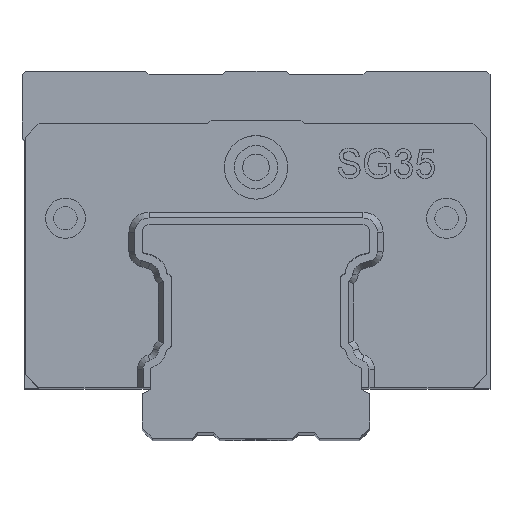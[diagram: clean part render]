
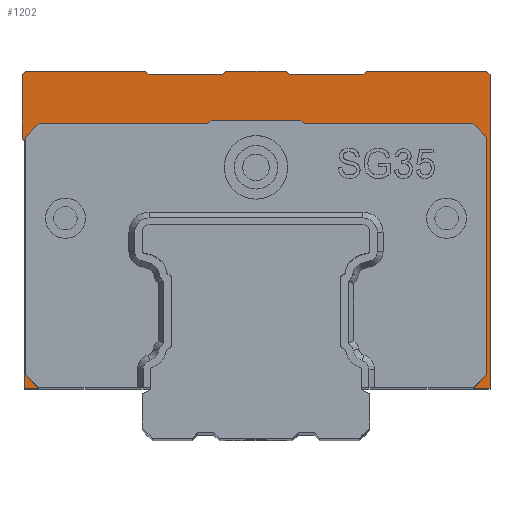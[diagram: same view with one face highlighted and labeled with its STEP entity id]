
A CAD part, top view. The second image highlights one B-rep face of the part: STEP entity #1202.
In plain terms, the highlighted planar face has unit normal (0, 0, 1).
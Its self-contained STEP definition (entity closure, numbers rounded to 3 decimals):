
#808=FACE_OUTER_BOUND('',#3395,.T.);
#1202=ADVANCED_FACE('',(#808),#1619,.F.);
#1619=PLANE('',#8478);
#1894=LINE('',#11164,#2518);
#1909=LINE('',#11195,#2533);
#1913=LINE('',#11203,#2537);
#1914=LINE('',#11206,#2538);
#1915=LINE('',#11207,#2539);
#1916=LINE('',#11209,#2540);
#1917=LINE('',#11211,#2541);
#1918=LINE('',#11213,#2542);
#1919=LINE('',#11215,#2543);
#1920=LINE('',#11217,#2544);
#1921=LINE('',#11219,#2545);
#1922=LINE('',#11221,#2546);
#1923=LINE('',#11223,#2547);
#1924=LINE('',#11225,#2548);
#1925=LINE('',#11227,#2549);
#1926=LINE('',#11229,#2550);
#1927=LINE('',#11231,#2551);
#1928=LINE('',#11233,#2552);
#1929=LINE('',#11235,#2553);
#1930=LINE('',#11236,#2554);
#1931=LINE('',#11238,#2555);
#1932=LINE('',#11240,#2556);
#1933=LINE('',#11242,#2557);
#1934=LINE('',#11244,#2558);
#1935=LINE('',#11246,#2559);
#1936=LINE('',#11248,#2560);
#1937=LINE('',#11250,#2561);
#1938=LINE('',#11252,#2562);
#2518=VECTOR('',#9281,1.);
#2533=VECTOR('',#9298,1.);
#2537=VECTOR('',#9304,1.);
#2538=VECTOR('',#9305,1.);
#2539=VECTOR('',#9306,1.);
#2540=VECTOR('',#9307,1.);
#2541=VECTOR('',#9308,1.);
#2542=VECTOR('',#9309,1.);
#2543=VECTOR('',#9310,1.);
#2544=VECTOR('',#9311,1.);
#2545=VECTOR('',#9312,1.);
#2546=VECTOR('',#9313,1.);
#2547=VECTOR('',#9314,1.);
#2548=VECTOR('',#9315,1.);
#2549=VECTOR('',#9316,1.);
#2550=VECTOR('',#9317,1.);
#2551=VECTOR('',#9318,1.);
#2552=VECTOR('',#9319,1.);
#2553=VECTOR('',#9320,1.);
#2554=VECTOR('',#9321,1.);
#2555=VECTOR('',#9322,1.);
#2556=VECTOR('',#9323,1.);
#2557=VECTOR('',#9324,1.);
#2558=VECTOR('',#9325,1.);
#2559=VECTOR('',#9326,1.);
#2560=VECTOR('',#9327,1.);
#2561=VECTOR('',#9328,1.);
#2562=VECTOR('',#9329,1.);
#3395=EDGE_LOOP('',(#4203,#4204,#4205,#4206,#4207,#4208,#4209,#4210,#4211,
#4212,#4213,#4214,#4215,#4216,#4217,#4218,#4219,#4220,#4221,#4222,#4223,
#4224,#4225,#4226,#4227,#4228,#4229,#4230));
#4203=ORIENTED_EDGE('',*,*,#7143,.T.);
#4204=ORIENTED_EDGE('',*,*,#7144,.T.);
#4205=ORIENTED_EDGE('',*,*,#7139,.T.);
#4206=ORIENTED_EDGE('',*,*,#7145,.T.);
#4207=ORIENTED_EDGE('',*,*,#7146,.T.);
#4208=ORIENTED_EDGE('',*,*,#7147,.T.);
#4209=ORIENTED_EDGE('',*,*,#7148,.T.);
#4210=ORIENTED_EDGE('',*,*,#7149,.T.);
#4211=ORIENTED_EDGE('',*,*,#7150,.T.);
#4212=ORIENTED_EDGE('',*,*,#7151,.T.);
#4213=ORIENTED_EDGE('',*,*,#7152,.T.);
#4214=ORIENTED_EDGE('',*,*,#7153,.T.);
#4215=ORIENTED_EDGE('',*,*,#7154,.T.);
#4216=ORIENTED_EDGE('',*,*,#7155,.T.);
#4217=ORIENTED_EDGE('',*,*,#7156,.T.);
#4218=ORIENTED_EDGE('',*,*,#7157,.T.);
#4219=ORIENTED_EDGE('',*,*,#7158,.T.);
#4220=ORIENTED_EDGE('',*,*,#7159,.F.);
#4221=ORIENTED_EDGE('',*,*,#7124,.T.);
#4222=ORIENTED_EDGE('',*,*,#7160,.T.);
#4223=ORIENTED_EDGE('',*,*,#7161,.T.);
#4224=ORIENTED_EDGE('',*,*,#7162,.T.);
#4225=ORIENTED_EDGE('',*,*,#7163,.T.);
#4226=ORIENTED_EDGE('',*,*,#7164,.F.);
#4227=ORIENTED_EDGE('',*,*,#7165,.F.);
#4228=ORIENTED_EDGE('',*,*,#7166,.F.);
#4229=ORIENTED_EDGE('',*,*,#7167,.T.);
#4230=ORIENTED_EDGE('',*,*,#7168,.T.);
#6279=VERTEX_POINT('',#11163);
#6280=VERTEX_POINT('',#11165);
#6294=VERTEX_POINT('',#11194);
#6295=VERTEX_POINT('',#11196);
#6298=VERTEX_POINT('',#11204);
#6299=VERTEX_POINT('',#11205);
#6300=VERTEX_POINT('',#11208);
#6301=VERTEX_POINT('',#11210);
#6302=VERTEX_POINT('',#11212);
#6303=VERTEX_POINT('',#11214);
#6304=VERTEX_POINT('',#11216);
#6305=VERTEX_POINT('',#11218);
#6306=VERTEX_POINT('',#11220);
#6307=VERTEX_POINT('',#11222);
#6308=VERTEX_POINT('',#11224);
#6309=VERTEX_POINT('',#11226);
#6310=VERTEX_POINT('',#11228);
#6311=VERTEX_POINT('',#11230);
#6312=VERTEX_POINT('',#11232);
#6313=VERTEX_POINT('',#11234);
#6314=VERTEX_POINT('',#11237);
#6315=VERTEX_POINT('',#11239);
#6316=VERTEX_POINT('',#11241);
#6317=VERTEX_POINT('',#11243);
#6318=VERTEX_POINT('',#11245);
#6319=VERTEX_POINT('',#11247);
#6320=VERTEX_POINT('',#11249);
#6321=VERTEX_POINT('',#11251);
#7124=EDGE_CURVE('',#6280,#6279,#1894,.T.);
#7139=EDGE_CURVE('',#6295,#6294,#1909,.T.);
#7143=EDGE_CURVE('',#6298,#6299,#1913,.T.);
#7144=EDGE_CURVE('',#6299,#6295,#1914,.T.);
#7145=EDGE_CURVE('',#6294,#6300,#1915,.T.);
#7146=EDGE_CURVE('',#6300,#6301,#1916,.T.);
#7147=EDGE_CURVE('',#6301,#6302,#1917,.T.);
#7148=EDGE_CURVE('',#6302,#6303,#1918,.T.);
#7149=EDGE_CURVE('',#6303,#6304,#1919,.T.);
#7150=EDGE_CURVE('',#6304,#6305,#1920,.T.);
#7151=EDGE_CURVE('',#6305,#6306,#1921,.T.);
#7152=EDGE_CURVE('',#6306,#6307,#1922,.T.);
#7153=EDGE_CURVE('',#6307,#6308,#1923,.T.);
#7154=EDGE_CURVE('',#6308,#6309,#1924,.T.);
#7155=EDGE_CURVE('',#6309,#6310,#1925,.T.);
#7156=EDGE_CURVE('',#6310,#6311,#1926,.T.);
#7157=EDGE_CURVE('',#6311,#6312,#1927,.T.);
#7158=EDGE_CURVE('',#6312,#6313,#1928,.T.);
#7159=EDGE_CURVE('',#6280,#6313,#1929,.T.);
#7160=EDGE_CURVE('',#6279,#6314,#1930,.T.);
#7161=EDGE_CURVE('',#6314,#6315,#1931,.T.);
#7162=EDGE_CURVE('',#6315,#6316,#1932,.T.);
#7163=EDGE_CURVE('',#6316,#6317,#1933,.T.);
#7164=EDGE_CURVE('',#6318,#6317,#1934,.T.);
#7165=EDGE_CURVE('',#6319,#6318,#1935,.T.);
#7166=EDGE_CURVE('',#6320,#6319,#1936,.T.);
#7167=EDGE_CURVE('',#6320,#6321,#1937,.T.);
#7168=EDGE_CURVE('',#6321,#6298,#1938,.T.);
#8478=AXIS2_PLACEMENT_3D('',#11253,#9330,#9331);
#9281=DIRECTION('',(1.,0.,0.));
#9298=DIRECTION('',(1.,0.,0.));
#9304=DIRECTION('',(0.,-1.,0.));
#9305=DIRECTION('',(-0.707,-0.707,0.));
#9306=DIRECTION('',(0.,1.,0.));
#9307=DIRECTION('',(-0.707,0.707,0.));
#9308=DIRECTION('',(-1.,0.,0.));
#9309=DIRECTION('',(-0.707,-0.707,0.));
#9310=DIRECTION('',(-1.,0.,0.));
#9311=DIRECTION('',(-0.707,0.707,0.));
#9312=DIRECTION('',(-1.,0.,0.));
#9313=DIRECTION('',(-0.707,-0.707,0.));
#9314=DIRECTION('',(-1.,0.,0.));
#9315=DIRECTION('',(-0.707,0.707,0.));
#9316=DIRECTION('',(-1.,0.,0.));
#9317=DIRECTION('',(-0.707,-0.707,0.));
#9318=DIRECTION('',(0.,-1.,0.));
#9319=DIRECTION('',(0.707,-0.707,0.));
#9320=DIRECTION('',(0.,1.,0.));
#9321=DIRECTION('',(-0.707,0.707,0.));
#9322=DIRECTION('',(0.,1.,0.));
#9323=DIRECTION('',(0.707,0.707,0.));
#9324=DIRECTION('',(1.,0.,0.));
#9325=DIRECTION('',(-0.707,-0.707,0.));
#9326=DIRECTION('',(-1.,0.,0.));
#9327=DIRECTION('',(-0.707,0.707,0.));
#9328=DIRECTION('',(1.,0.,0.));
#9329=DIRECTION('',(0.707,-0.707,0.));
#9330=DIRECTION('',(0.,0.,-1.));
#9331=DIRECTION('',(1.,0.,0.));
#11163=CARTESIAN_POINT('',(-36.297,-6.483,229.013));
#11164=CARTESIAN_POINT('',(-38.397,-6.483,229.013));
#11165=CARTESIAN_POINT('',(-38.397,-6.483,229.013));
#11194=CARTESIAN_POINT('',(31.203,-6.483,229.013));
#11195=CARTESIAN_POINT('',(-38.397,-6.483,229.013));
#11196=CARTESIAN_POINT('',(28.703,-6.483,229.013));
#11203=CARTESIAN_POINT('',(30.703,-7.312,229.013));
#11204=CARTESIAN_POINT('',(30.703,31.017,229.013));
#11205=CARTESIAN_POINT('',(30.703,-4.483,229.013));
#11206=CARTESIAN_POINT('',(39.538,4.352,229.013));
#11207=CARTESIAN_POINT('',(31.203,-6.483,229.013));
#11208=CARTESIAN_POINT('',(31.203,40.417,229.013));
#11209=CARTESIAN_POINT('',(31.203,40.417,229.013));
#11210=CARTESIAN_POINT('',(30.703,40.917,229.013));
#11211=CARTESIAN_POINT('',(30.703,40.917,229.013));
#11212=CARTESIAN_POINT('',(12.703,40.917,229.013));
#11213=CARTESIAN_POINT('',(12.703,40.917,229.013));
#11214=CARTESIAN_POINT('',(12.203,40.417,229.013));
#11215=CARTESIAN_POINT('',(12.203,40.417,229.013));
#11216=CARTESIAN_POINT('',(1.203,40.417,229.013));
#11217=CARTESIAN_POINT('',(1.203,40.417,229.013));
#11218=CARTESIAN_POINT('',(0.703,40.917,229.013));
#11219=CARTESIAN_POINT('',(0.703,40.917,229.013));
#11220=CARTESIAN_POINT('',(-8.297,40.917,229.013));
#11221=CARTESIAN_POINT('',(-8.297,40.917,229.013));
#11222=CARTESIAN_POINT('',(-8.797,40.417,229.013));
#11223=CARTESIAN_POINT('',(-8.797,40.417,229.013));
#11224=CARTESIAN_POINT('',(-19.797,40.417,229.013));
#11225=CARTESIAN_POINT('',(-19.797,40.417,229.013));
#11226=CARTESIAN_POINT('',(-20.297,40.917,229.013));
#11227=CARTESIAN_POINT('',(-20.297,40.917,229.013));
#11228=CARTESIAN_POINT('',(-38.297,40.917,229.013));
#11229=CARTESIAN_POINT('',(-38.297,40.917,229.013));
#11230=CARTESIAN_POINT('',(-38.797,40.417,229.013));
#11231=CARTESIAN_POINT('',(-38.797,40.417,229.013));
#11232=CARTESIAN_POINT('',(-38.797,30.917,229.013));
#11233=CARTESIAN_POINT('',(-38.797,30.917,229.013));
#11234=CARTESIAN_POINT('',(-38.397,30.517,229.013));
#11235=CARTESIAN_POINT('',(-38.397,-6.483,229.013));
#11236=CARTESIAN_POINT('',(7.867,-50.648,229.013));
#11237=CARTESIAN_POINT('',(-38.297,-4.483,229.013));
#11238=CARTESIAN_POINT('',(-38.297,-7.312,229.013));
#11239=CARTESIAN_POINT('',(-38.297,31.017,229.013));
#11240=CARTESIAN_POINT('',(-12.712,56.602,229.013));
#11241=CARTESIAN_POINT('',(-36.248,33.066,229.013));
#11242=CARTESIAN_POINT('',(51.203,33.066,229.013));
#11243=CARTESIAN_POINT('',(-11.025,33.066,229.013));
#11244=CARTESIAN_POINT('',(-0.1,43.991,229.013));
#11245=CARTESIAN_POINT('',(-10.525,33.566,229.013));
#11246=CARTESIAN_POINT('',(51.203,33.566,229.013));
#11247=CARTESIAN_POINT('',(2.93,33.566,229.013));
#11248=CARTESIAN_POINT('',(47.505,-11.009,229.013));
#11249=CARTESIAN_POINT('',(3.43,33.066,229.013));
#11250=CARTESIAN_POINT('',(51.203,33.066,229.013));
#11251=CARTESIAN_POINT('',(28.654,33.066,229.013));
#11252=CARTESIAN_POINT('',(60.117,1.602,229.013));
#11253=CARTESIAN_POINT('',(34.703,-8.853,229.013));
